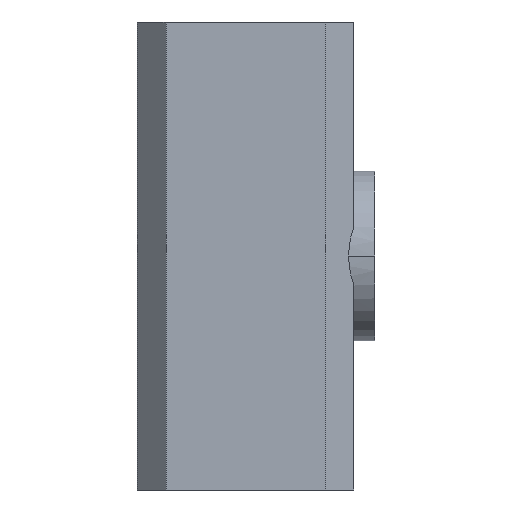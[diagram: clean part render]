
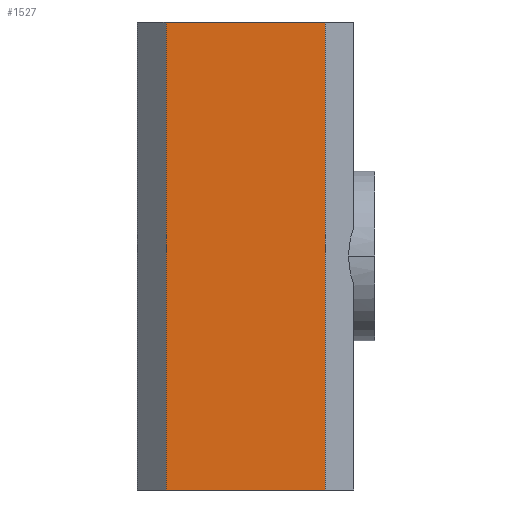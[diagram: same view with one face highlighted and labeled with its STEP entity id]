
A CAD part, left-side view. The second image highlights one B-rep face of the part: STEP entity #1527.
In plain terms, the highlighted planar face has unit normal (-1, 0, 0).
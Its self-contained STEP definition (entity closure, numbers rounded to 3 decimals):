
#331=CARTESIAN_POINT('Vertex',(-57.035,26.528,0.)) ;
#334=CARTESIAN_POINT('Line Origine',(-57.035,7.307,0.)) ;
#338=CARTESIAN_POINT('Vertex',(-57.035,-11.914,0.)) ;
#1475=CARTESIAN_POINT('Line Origine',(-57.035,-11.914,-56.5)) ;
#1479=CARTESIAN_POINT('Vertex',(-57.035,-11.914,-113.)) ;
#1504=CARTESIAN_POINT('Axis2P3D Location',(-57.035,-11.914,0.)) ;
#1509=CARTESIAN_POINT('Line Origine',(-57.035,7.307,-113.)) ;
#1513=CARTESIAN_POINT('Vertex',(-57.035,26.528,-113.)) ;
#1516=CARTESIAN_POINT('Line Origine',(-57.035,26.528,-56.5)) ;
#335=DIRECTION('Vector Direction',(0.,1.,0.)) ;
#1476=DIRECTION('Vector Direction',(0.,0.,-1.)) ;
#1505=DIRECTION('Axis2P3D Direction',(-1.,0.,0.)) ;
#1506=DIRECTION('Axis2P3D XDirection',(0.,1.,0.)) ;
#1510=DIRECTION('Vector Direction',(0.,1.,0.)) ;
#1517=DIRECTION('Vector Direction',(0.,0.,-1.)) ;
#1507=AXIS2_PLACEMENT_3D('Plane Axis2P3D',#1504,#1505,#1506) ;
#1522=ORIENTED_EDGE('',*,*,#1515,.T.) ;
#1523=ORIENTED_EDGE('',*,*,#1481,.F.) ;
#1524=ORIENTED_EDGE('',*,*,#340,.F.) ;
#1525=ORIENTED_EDGE('',*,*,#1520,.T.) ;
#336=VECTOR('Line Direction',#335,1.) ;
#1477=VECTOR('Line Direction',#1476,1.) ;
#1511=VECTOR('Line Direction',#1510,1.) ;
#1518=VECTOR('Line Direction',#1517,1.) ;
#1527=ADVANCED_FACE('Corps principal',(#1526),#1508,.T.) ;
#340=EDGE_CURVE('',#332,#339,#337,.F.) ;
#1481=EDGE_CURVE('',#339,#1480,#1478,.T.) ;
#1515=EDGE_CURVE('',#1514,#1480,#1512,.F.) ;
#1520=EDGE_CURVE('',#332,#1514,#1519,.T.) ;
#1521=EDGE_LOOP('',(#1522,#1523,#1524,#1525)) ;
#1526=FACE_OUTER_BOUND('',#1521,.T.) ;
#337=LINE('Line',#334,#336) ;
#1478=LINE('Line',#1475,#1477) ;
#1512=LINE('Line',#1509,#1511) ;
#1519=LINE('Line',#1516,#1518) ;
#1508=PLANE('Plane',#1507) ;
#332=VERTEX_POINT('',#331) ;
#339=VERTEX_POINT('',#338) ;
#1480=VERTEX_POINT('',#1479) ;
#1514=VERTEX_POINT('',#1513) ;
